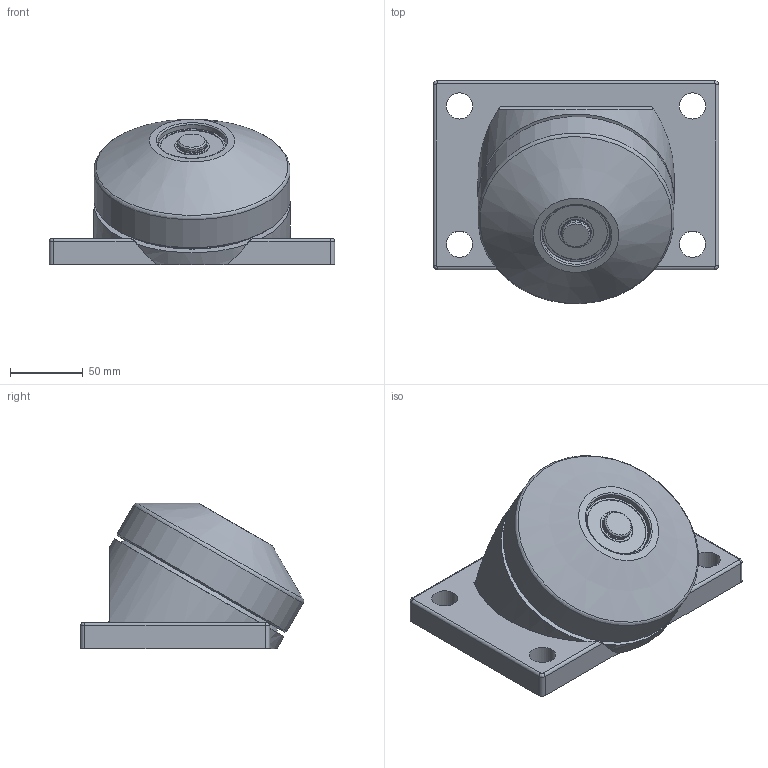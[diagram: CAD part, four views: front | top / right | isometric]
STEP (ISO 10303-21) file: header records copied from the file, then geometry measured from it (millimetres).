
FILE_DESCRIPTION(/* description */ (''),/* implementation_level */ '2;1');
FILE_NAME(/* name */ 'Z:\34-Tei\01-web 3Dデータ\SW車輪\SW-100-I.stp',/* time_stamp */ '2015-03-17T16:41:55+09:00',/* author */ ('yamaki'),/* organization */ (''),/* preprocessor_version */ 'ST-DEVELOPER v15.6',/* originating_system */ 'Autodesk Inventor 2015',/* authorisation */ '');
FILE_SCHEMA (('AUTOMOTIVE_DESIGN { 1 0 10303 214 3 1 1 }'));
Length unit declared in the file: centimetre
Products named in the file (1): SW-100-I
Bounding box: 196 x 153.23 x 99.96 mm (x, y, z)
Volume: 974735.9 mm3; surface area: 147319.3 mm2
Topology: 1 solids, 2 shells, 102 faces, 212 edges, 135 vertices
Faces by surface type: cylinder 41, plane 33, cone 14, torus 8, bspline 6
Full cylindrical faces by diameter (mm): 3.5 x1, 8 x1, 18 x4, 19 x1, 20 x3, 24 x2, 26 x2, 32 x1, 35 x1, 40 x1, 43 x2, 47 x1, 47.1 x1, 50 x1, 65 x1, 100.1 x1, 108 x1, 109 x1, 135 x1
Entity records: 2809 total; most frequent: CARTESIAN_POINT 712, DIRECTION 441, ORIENTED_EDGE 294, AXIS2_PLACEMENT_3D 208, EDGE_LOOP 185, EDGE_CURVE 147, VERTEX_POINT 120, STYLED_ITEM 103
